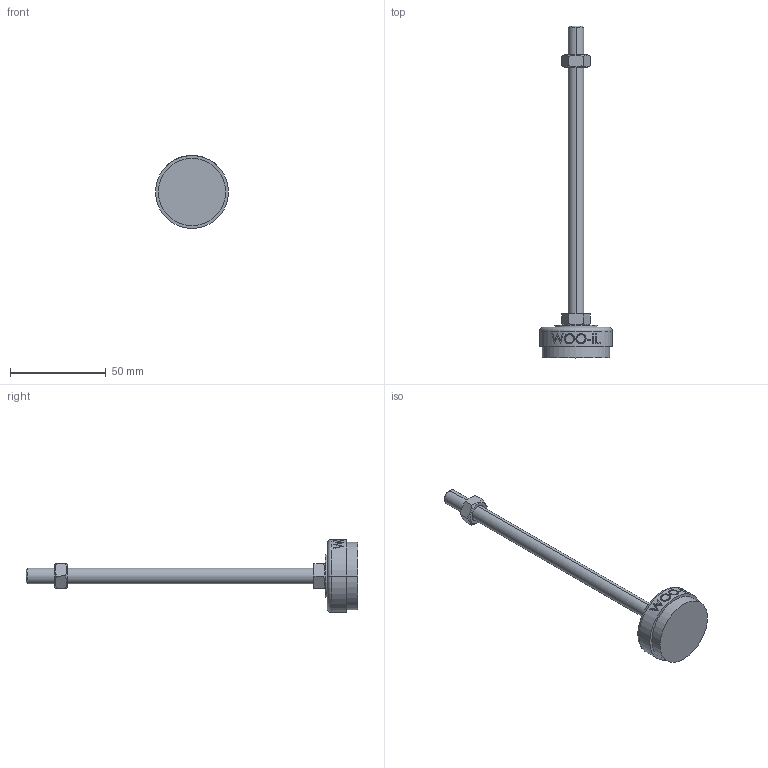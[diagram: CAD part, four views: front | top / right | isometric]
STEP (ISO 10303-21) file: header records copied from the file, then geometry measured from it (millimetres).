
FILE_DESCRIPTION (( 'STEP AP214' ), '1' );
FILE_NAME ('NS38-M8-150.STEP', '2021-03-29T00:35:15', ( '' ), ( '' ), 'SwSTEP 2.0', 'SolidWorks 2019', '' );
FILE_SCHEMA (( 'AUTOMOTIVE_DESIGN' ));
Length unit declared in the file: millimetre
Products named in the file (1): NS38-M8-150
Bounding box: 38 x 173 x 38 mm (x, y, z)
Volume: 26391.1 mm3; surface area: 9017.7 mm2
Topology: 3 solids, 3 shells, 96 faces, 223 edges, 144 vertices
Faces by surface type: plane 48, cylinder 18, bspline 16, cone 12, torus 2
Entity records: 4189 total; most frequent: CARTESIAN_POINT 2078, ORIENTED_EDGE 446, DIRECTION 379, EDGE_CURVE 223, VERTEX_POINT 144, AXIS2_PLACEMENT_3D 141, EDGE_LOOP 109, VECTOR 97
